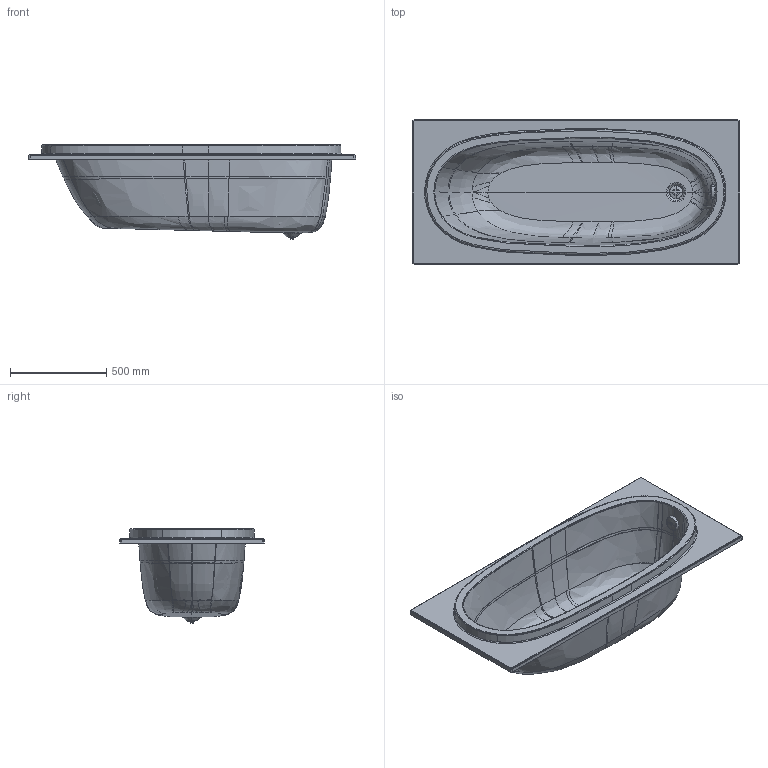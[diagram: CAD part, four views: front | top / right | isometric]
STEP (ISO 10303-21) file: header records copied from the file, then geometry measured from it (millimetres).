
FILE_DESCRIPTION(/* description */ (''),/* implementation_level */ '2;1');
FILE_NAME(/* name */ '700677',/* time_stamp */ '2025-01-07T13:35:48+01:00',/* author */ (''),/* organization */ (''),/* preprocessor_version */ 'ST-DEVELOPER v16.5',/* originating_system */ 'Rhino 7.37',/* authorisation */ '');
FILE_SCHEMA (('CONFIG_CONTROL_DESIGN'));
Length unit declared in the file: millimetre
Products named in the file (1): Document
Bounding box: 1700 x 750 x 490.93 mm (x, y, z)
Volume: 59746.5 mm3; surface area: 5397147.8 mm2
Topology: 3 solids, 4 shells, 612 faces, 1486 edges, 858 vertices
Faces by surface type: bspline 383, plane 115, cylinder 114
Entity records: 44009 total; most frequent: CARTESIAN_POINT 34758, ORIENTED_EDGE 2952, EDGE_CURVE 1478, B_SPLINE_CURVE_WITH_KNOTS 1043, VERTEX_POINT 858, EDGE_LOOP 629, ADVANCED_FACE 612, FACE_OUTER_BOUND 612
